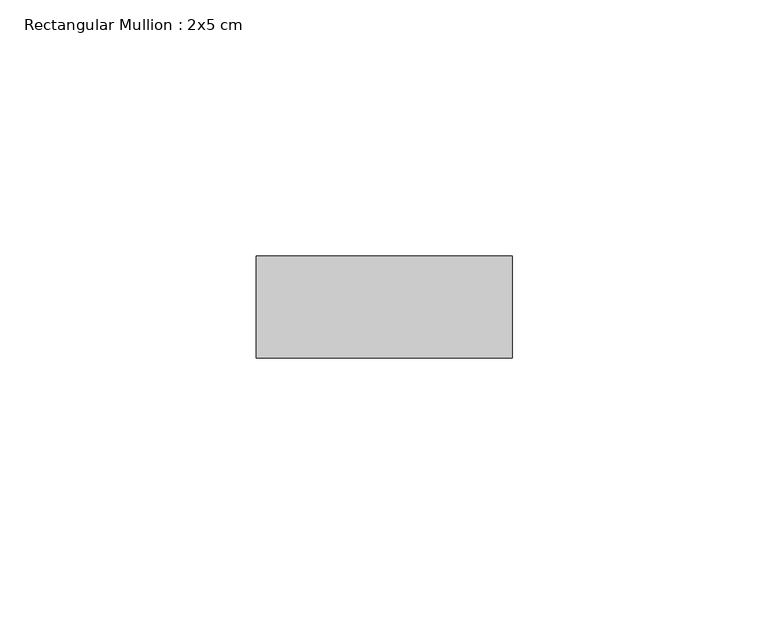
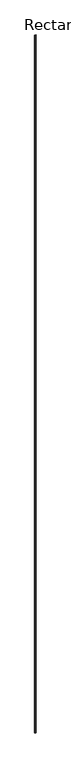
"""IFC4 building model written with IfcOpenShell, lengths in millimetres: member geometry, Rectangular Mullion : 2x5 cm."""

from ifc_helpers import new_model, si_unit, frame, origin, place, context, project, spatial, polyline, outline, extrude, source, transform, mapped, element, save


def rectangular_mullion_2x5_cm_ea640084(model_context):
    return source(origin(), model_context, "Body", "SweptSolid", [
        extrude(outline(polyline([(50.0, 20.0), (50.0, 0.0), (0.0, 0.0), (0.0, 20.0), (50.0, 20.0)])), frame((0.0, 0.0, -30205.9850161), z_axis=(0.0, 0.0, 1.0), x_axis=(1.0, 0.0, 0.0)), (0.0, 0.0, 1.0), 30205.9850161),
    ])


if __name__ == "__main__":
    model = new_model("IFC4")
    model_context = context("Model", 3, world=origin())
    ifc_project = project(units=[si_unit("LENGTHUNIT", "METRE", prefix="MILLI")], contexts=[model_context])
    site = spatial("IfcSite", under=ifc_project)
    building = spatial("IfcBuilding", under=site)
    placement = place(None, origin())
    rectangular_mullion_2x5_cm_shape = rectangular_mullion_2x5_cm_ea640084(model_context)
    element("IfcMember", 1, ObjectType="Rectangular Mullion : 2x5 cm", at=placement, inside=building, context=model_context, shape_type="MappedRepresentation", body=[
        mapped(rectangular_mullion_2x5_cm_shape, transform((0.0, 0.0, 0.0), x_axis=(1.0, 0.0, 0.0), y_axis=(0.0, 1.0, 0.0), z_axis=(0.0, 0.0, 1.0))),
    ])
    save(model, "model.ifc")
